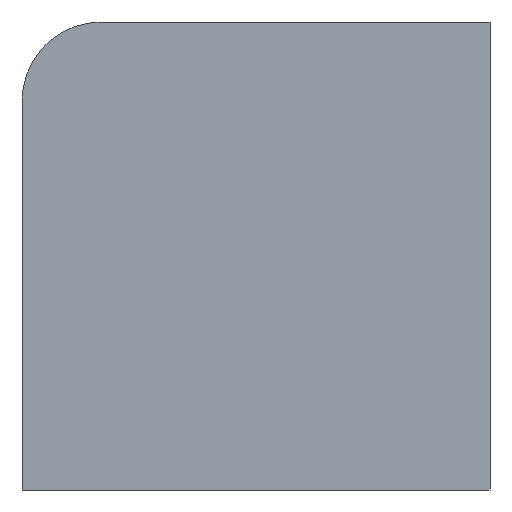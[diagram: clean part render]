
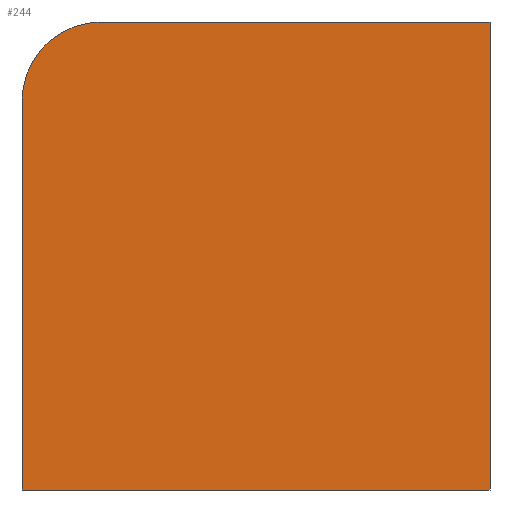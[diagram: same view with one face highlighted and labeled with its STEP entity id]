
A CAD part, left-side view. The second image highlights one B-rep face of the part: STEP entity #244.
In plain terms, the highlighted planar face has unit normal (-1, 0, 0).
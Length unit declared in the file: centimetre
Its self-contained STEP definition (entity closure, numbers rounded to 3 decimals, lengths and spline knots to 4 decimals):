
#7 = CARTESIAN_POINT ( 'NONE',  ( 0., 1000., 830.8236 ) ) ;
#9 = DIRECTION ( 'NONE',  ( 0., 0., -1. ) ) ;
#21 = VECTOR ( 'NONE', #95, 100. ) ;
#24 = CARTESIAN_POINT ( 'NONE',  ( 0., 1000., 0. ) ) ;
#28 = CARTESIAN_POINT ( 'NONE',  ( 0., 830.8236, 1000. ) ) ;
#58 = LINE ( 'NONE', #154, #304 ) ;
#75 = AXIS2_PLACEMENT_3D ( 'NONE', #92, #122, #87 ) ;
#81 = DIRECTION ( 'NONE',  ( 0., 0., -1. ) ) ;
#87 = DIRECTION ( 'NONE',  ( 0., 0., -1. ) ) ;
#92 = CARTESIAN_POINT ( 'NONE',  ( 0., 1000., 1000. ) ) ;
#95 = DIRECTION ( 'NONE',  ( 0., 0., -1. ) ) ;
#100 = VERTEX_POINT ( 'NONE', #138 ) ;
#109 = CARTESIAN_POINT ( 'NONE',  ( 0., 0., 1000. ) ) ;
#122 = DIRECTION ( 'NONE',  ( 1., 0., 0. ) ) ;
#125 = DIRECTION ( 'NONE',  ( 0., -1., 0. ) ) ;
#129 = AXIS2_PLACEMENT_3D ( 'NONE', #354, #176, #9 ) ;
#138 = CARTESIAN_POINT ( 'NONE',  ( 0., 0., 1000. ) ) ;
#146 = EDGE_CURVE ( 'NONE', #100, #307, #366, .T. ) ;
#148 = ORIENTED_EDGE ( 'NONE', *, *, #163, .T. ) ;
#151 = FACE_OUTER_BOUND ( 'NONE', #185, .T. ) ;
#154 = CARTESIAN_POINT ( 'NONE',  ( 0., 1000., 1000. ) ) ;
#160 = VERTEX_POINT ( 'NONE', #24 ) ;
#163 = EDGE_CURVE ( 'NONE', #246, #160, #230, .T. ) ;
#166 = CARTESIAN_POINT ( 'NONE',  ( 0., 1000., 0. ) ) ;
#170 = EDGE_CURVE ( 'NONE', #240, #246, #232, .T. ) ;
#176 = DIRECTION ( 'NONE',  ( -1., 0., 0. ) ) ;
#185 = EDGE_LOOP ( 'NONE', ( #302, #348, #148, #262, #269 ) ) ;
#199 = CARTESIAN_POINT ( 'NONE',  ( 0., 1000., 1000. ) ) ;
#230 = LINE ( 'NONE', #199, #21 ) ;
#232 = CIRCLE ( 'NONE', #129, 169.1764 ) ;
#235 = PLANE ( 'NONE',  #75 ) ;
#240 = VERTEX_POINT ( 'NONE', #28 ) ;
#244 = ADVANCED_FACE ( 'NONE', ( #151 ), #235, .F. ) ;
#246 = VERTEX_POINT ( 'NONE', #7 ) ;
#262 = ORIENTED_EDGE ( 'NONE', *, *, #353, .T. ) ;
#264 = DIRECTION ( 'NONE',  ( 0., -1., 0. ) ) ;
#269 = ORIENTED_EDGE ( 'NONE', *, *, #146, .F. ) ;
#278 = LINE ( 'NONE', #166, #319 ) ;
#295 = CARTESIAN_POINT ( 'NONE',  ( 0., 0., 0. ) ) ;
#302 = ORIENTED_EDGE ( 'NONE', *, *, #318, .F. ) ;
#304 = VECTOR ( 'NONE', #264, 100. ) ;
#307 = VERTEX_POINT ( 'NONE', #295 ) ;
#318 = EDGE_CURVE ( 'NONE', #240, #100, #58, .T. ) ;
#319 = VECTOR ( 'NONE', #125, 100. ) ;
#328 = VECTOR ( 'NONE', #81, 100. ) ;
#348 = ORIENTED_EDGE ( 'NONE', *, *, #170, .T. ) ;
#353 = EDGE_CURVE ( 'NONE', #160, #307, #278, .T. ) ;
#354 = CARTESIAN_POINT ( 'NONE',  ( 0., 830.8236, 830.8236 ) ) ;
#366 = LINE ( 'NONE', #109, #328 ) ;
